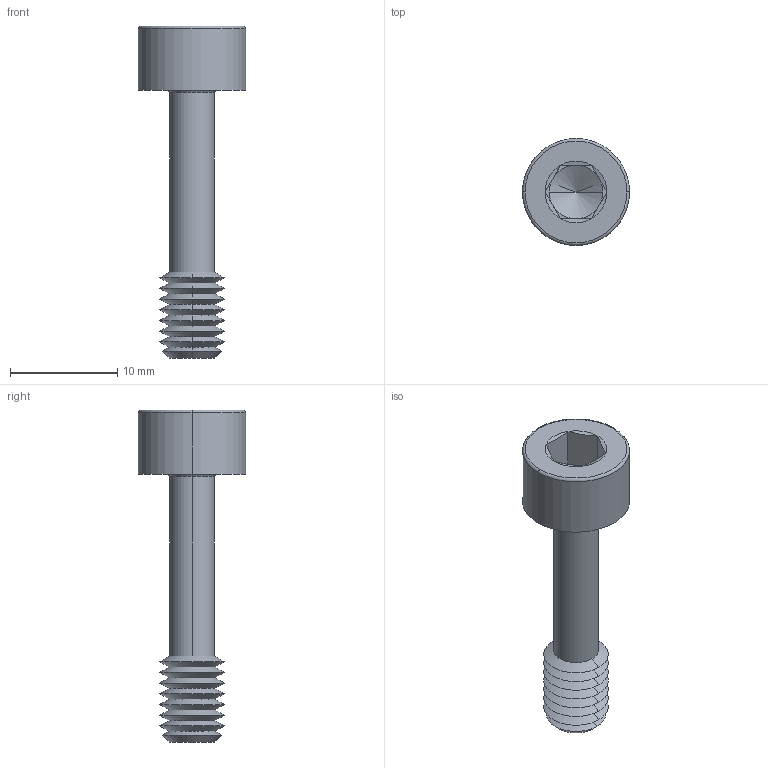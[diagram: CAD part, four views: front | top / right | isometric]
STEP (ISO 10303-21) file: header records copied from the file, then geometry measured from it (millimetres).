
FILE_DESCRIPTION (( 'STEP AP203' ), '1' );
FILE_NAME ('P0154.060-025-BL.step', '2024-06-17T11:29:02', ( '' ), ( '' ), 'SwSTEP 2.0', 'SolidWorks 2019', '' );
FILE_SCHEMA (( 'CONFIG_CONTROL_DESIGN' ));
Length unit declared in the file: millimetre
Products named in the file (1): P0154.060-025-BL
Bounding box: 10 x 10 x 31 mm (x, y, z)
Volume: 754 mm3; surface area: 905.5 mm2
Topology: 1 solids, 1 shells, 63 faces, 128 edges, 67 vertices
Faces by surface type: cone 40, plane 15, torus 4, cylinder 4
Entity records: 1687 total; most frequent: DIRECTION 312, CARTESIAN_POINT 283, ORIENTED_EDGE 252, AXIS2_PLACEMENT_3D 128, EDGE_CURVE 126, VERTEX_POINT 67, EDGE_LOOP 65, CIRCLE 64
